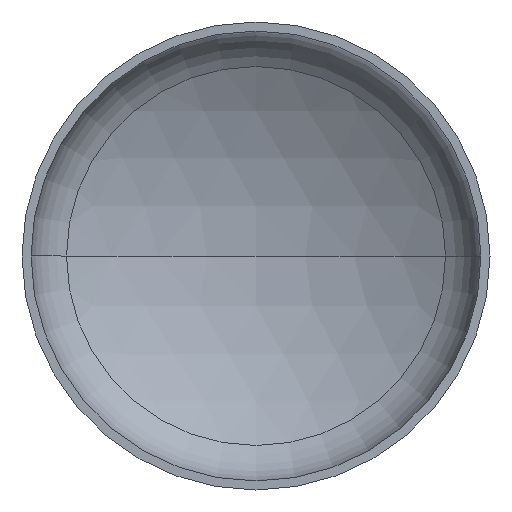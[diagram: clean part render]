
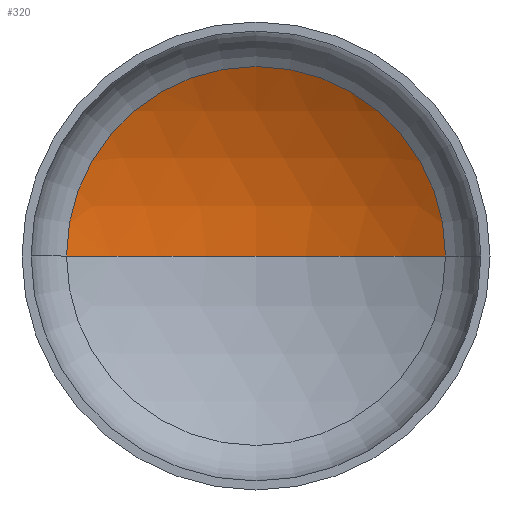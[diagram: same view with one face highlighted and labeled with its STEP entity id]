
A CAD part, front view. The second image highlights one B-rep face of the part: STEP entity #320.
In plain terms, the highlighted spherical face has radius 2400 mm.
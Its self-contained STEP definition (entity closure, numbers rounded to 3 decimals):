
#2 = AXIS2_PLACEMENT_3D ( 'NONE', #225, #224, #339 ) ;
#4 = AXIS2_PLACEMENT_3D ( 'NONE', #305, #47, #330 ) ;
#10 = AXIS2_PLACEMENT_3D ( 'NONE', #220, #216, #214 ) ;
#30 = AXIS2_PLACEMENT_3D ( 'NONE', #246, #401, #375 ) ;
#47 = DIRECTION ( 'NONE',  ( 0., 0., -1. ) ) ;
#58 = VERTEX_POINT ( 'NONE', #217 ) ;
#59 = EDGE_LOOP ( 'NONE', ( #134, #128, #65 ) ) ;
#65 = ORIENTED_EDGE ( 'NONE', *, *, #81, .T. ) ;
#81 = EDGE_CURVE ( 'NONE', #125, #82, #302, .T. ) ;
#82 = VERTEX_POINT ( 'NONE', #122 ) ;
#122 = CARTESIAN_POINT ( 'NONE',  ( -1214.845, 516.715, 0. ) ) ;
#125 = VERTEX_POINT ( 'NONE', #282 ) ;
#128 = ORIENTED_EDGE ( 'NONE', *, *, #347, .T. ) ;
#134 = ORIENTED_EDGE ( 'NONE', *, *, #349, .F. ) ;
#214 = DIRECTION ( 'NONE',  ( -1., 0., 0. ) ) ;
#216 = DIRECTION ( 'NONE',  ( 0., 0., -1. ) ) ;
#217 = CARTESIAN_POINT ( 'NONE',  ( 0., 846.896, 0. ) ) ;
#220 = CARTESIAN_POINT ( 'NONE',  ( 0., -1553.104, 0. ) ) ;
#224 = DIRECTION ( 'NONE',  ( 0., 0., 1. ) ) ;
#225 = CARTESIAN_POINT ( 'NONE',  ( 0., -1553.104, 0. ) ) ;
#246 = CARTESIAN_POINT ( 'NONE',  ( 0., 516.715, 0. ) ) ;
#267 = CIRCLE ( 'NONE', #2, 2400. ) ;
#280 = FACE_OUTER_BOUND ( 'NONE', #59, .T. ) ;
#282 = CARTESIAN_POINT ( 'NONE',  ( 1214.845, 516.715, 0. ) ) ;
#302 = CIRCLE ( 'NONE', #30, 1214.845 ) ;
#305 = CARTESIAN_POINT ( 'NONE',  ( 0., -1553.104, 0. ) ) ;
#320 = ADVANCED_FACE ( 'NONE', ( #280 ), #340, .F. ) ;
#330 = DIRECTION ( 'NONE',  ( -1., 0., 0. ) ) ;
#331 = CIRCLE ( 'NONE', #10, 2400. ) ;
#339 = DIRECTION ( 'NONE',  ( 1., 0., 0. ) ) ;
#340 = SPHERICAL_SURFACE ( 'NONE', #4, 2400. ) ;
#347 = EDGE_CURVE ( 'NONE', #58, #125, #331, .T. ) ;
#349 = EDGE_CURVE ( 'NONE', #58, #82, #267, .T. ) ;
#375 = DIRECTION ( 'NONE',  ( 1., 0., 0. ) ) ;
#401 = DIRECTION ( 'NONE',  ( 0., -1., 0. ) ) ;
